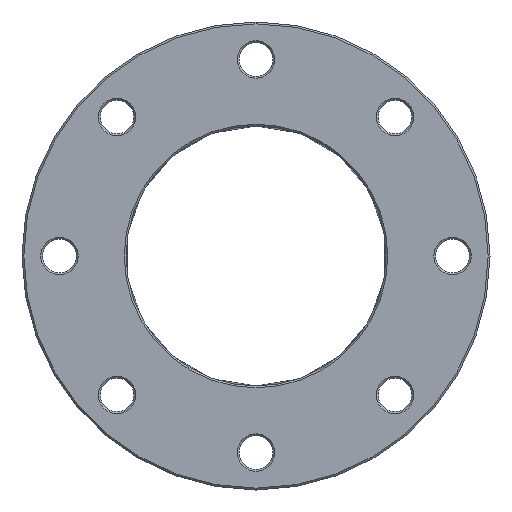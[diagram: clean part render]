
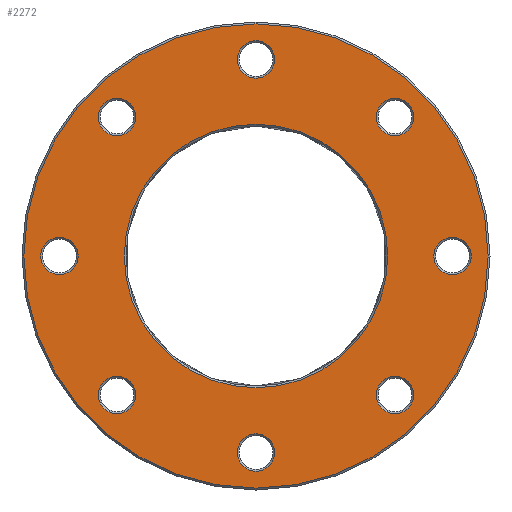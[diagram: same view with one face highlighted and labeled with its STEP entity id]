
A CAD part, front view. The second image highlights one B-rep face of the part: STEP entity #2272.
In plain terms, the highlighted planar face has unit normal (0, -1, 0).
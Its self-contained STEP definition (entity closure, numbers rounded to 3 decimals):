
#646=CARTESIAN_POINT('',(-74.246,-5.948,74.246));
#647=DIRECTION('',(0.,1.,0.));
#648=DIRECTION('',(0.707,0.,0.707));
#649=AXIS2_PLACEMENT_3D('',#646,#647,#648);
#654=CARTESIAN_POINT('',(-74.246,-5.948,74.246));
#655=DIRECTION('',(0.,1.,0.));
#656=DIRECTION('',(-0.707,0.,-0.707));
#657=AXIS2_PLACEMENT_3D('',#654,#655,#656);
#662=CARTESIAN_POINT('',(-105.,-5.948,0.));
#663=DIRECTION('',(0.,1.,0.));
#664=DIRECTION('',(0.,0.,-1.));
#665=AXIS2_PLACEMENT_3D('',#662,#663,#664);
#670=CARTESIAN_POINT('',(-105.,-5.948,0.));
#671=DIRECTION('',(0.,1.,0.));
#672=DIRECTION('',(0.,0.,1.));
#673=AXIS2_PLACEMENT_3D('',#670,#671,#672);
#678=CARTESIAN_POINT('',(-74.246,-5.948,
-74.246));
#679=DIRECTION('',(0.,1.,0.));
#680=DIRECTION('',(0.707,0.,-0.707));
#681=AXIS2_PLACEMENT_3D('',#678,#679,#680);
#686=CARTESIAN_POINT('',(-74.246,-5.948,
-74.246));
#687=DIRECTION('',(0.,1.,0.));
#688=DIRECTION('',(-0.707,0.,0.707));
#689=AXIS2_PLACEMENT_3D('',#686,#687,#688);
#694=CARTESIAN_POINT('',(0.,-5.948,-105.));
#695=DIRECTION('',(0.,1.,0.));
#696=DIRECTION('',(1.,0.,0.));
#697=AXIS2_PLACEMENT_3D('',#694,#695,#696);
#702=CARTESIAN_POINT('',(0.,-5.948,-105.));
#703=DIRECTION('',(0.,1.,0.));
#704=DIRECTION('',(-1.,0.,0.));
#705=AXIS2_PLACEMENT_3D('',#702,#703,#704);
#710=CARTESIAN_POINT('',(74.246,-5.948,-74.246));
#711=DIRECTION('',(0.,1.,0.));
#712=DIRECTION('',(0.707,0.,0.707));
#713=AXIS2_PLACEMENT_3D('',#710,#711,#712);
#718=CARTESIAN_POINT('',(74.246,-5.948,-74.246));
#719=DIRECTION('',(0.,1.,0.));
#720=DIRECTION('',(-0.707,0.,-0.707));
#721=AXIS2_PLACEMENT_3D('',#718,#719,#720);
#726=CARTESIAN_POINT('',(105.,-5.948,0.));
#727=DIRECTION('',(0.,1.,0.));
#728=DIRECTION('',(0.,0.,1.));
#729=AXIS2_PLACEMENT_3D('',#726,#727,#728);
#734=CARTESIAN_POINT('',(105.,-5.948,0.));
#735=DIRECTION('',(0.,1.,0.));
#736=DIRECTION('',(0.,0.,-1.));
#737=AXIS2_PLACEMENT_3D('',#734,#735,#736);
#742=CARTESIAN_POINT('',(0.,-5.948,105.));
#743=DIRECTION('',(0.,1.,0.));
#744=DIRECTION('',(-1.,0.,0.));
#745=AXIS2_PLACEMENT_3D('',#742,#743,#744);
#750=CARTESIAN_POINT('',(0.,-5.948,105.));
#751=DIRECTION('',(0.,1.,0.));
#752=DIRECTION('',(1.,0.,0.));
#753=AXIS2_PLACEMENT_3D('',#750,#751,#752);
#758=CARTESIAN_POINT('',(74.246,-5.948,74.246));
#759=DIRECTION('',(0.,1.,0.));
#760=DIRECTION('',(0.707,0.,-0.707));
#761=AXIS2_PLACEMENT_3D('',#758,#759,#760);
#766=CARTESIAN_POINT('',(74.246,-5.948,74.246));
#767=DIRECTION('',(0.,1.,0.));
#768=DIRECTION('',(-0.707,0.,0.707));
#769=AXIS2_PLACEMENT_3D('',#766,#767,#768);
#774=CARTESIAN_POINT('',(0.,-5.948,0.));
#775=DIRECTION('',(0.,-1.,0.));
#776=DIRECTION('',(-1.,0.,0.));
#777=AXIS2_PLACEMENT_3D('',#774,#775,#776);
#782=CARTESIAN_POINT('',(0.,-5.948,0.));
#783=DIRECTION('',(0.,-1.,0.));
#784=DIRECTION('',(1.,0.,0.));
#785=AXIS2_PLACEMENT_3D('',#782,#783,#784);
#790=CARTESIAN_POINT('',(0.,-5.948,0.));
#791=DIRECTION('',(0.,1.,0.));
#792=DIRECTION('',(1.,0.,0.));
#793=AXIS2_PLACEMENT_3D('',#790,#791,#792);
#798=CARTESIAN_POINT('',(0.,-5.948,0.));
#799=DIRECTION('',(0.,1.,0.));
#800=DIRECTION('',(-1.,0.,0.));
#801=AXIS2_PLACEMENT_3D('',#798,#799,#800);
#1657=CARTESIAN_POINT('',(-67.175,-5.948,
81.317));
#1658=CARTESIAN_POINT('',(-81.317,-5.948,
67.175));
#1659=VERTEX_POINT('',#1657);
#1660=VERTEX_POINT('',#1658);
#1665=CARTESIAN_POINT('',(-105.,-5.948,-10.));
#1666=CARTESIAN_POINT('',(-105.,-5.948,10.));
#1667=VERTEX_POINT('',#1665);
#1668=VERTEX_POINT('',#1666);
#1673=CARTESIAN_POINT('',(-67.175,-5.948,
-81.317));
#1674=CARTESIAN_POINT('',(-81.317,-5.948,
-67.175));
#1675=VERTEX_POINT('',#1673);
#1676=VERTEX_POINT('',#1674);
#1681=CARTESIAN_POINT('',(10.,-5.948,-105.));
#1682=CARTESIAN_POINT('',(-10.,-5.948,-105.));
#1683=VERTEX_POINT('',#1681);
#1684=VERTEX_POINT('',#1682);
#1689=CARTESIAN_POINT('',(81.317,-5.948,
-67.175));
#1690=CARTESIAN_POINT('',(67.175,-5.948,
-81.317));
#1691=VERTEX_POINT('',#1689);
#1692=VERTEX_POINT('',#1690);
#1697=CARTESIAN_POINT('',(105.,-5.948,10.));
#1698=CARTESIAN_POINT('',(105.,-5.948,-10.));
#1699=VERTEX_POINT('',#1697);
#1700=VERTEX_POINT('',#1698);
#1705=CARTESIAN_POINT('',(-10.,-5.948,105.));
#1706=CARTESIAN_POINT('',(10.,-5.948,105.));
#1707=VERTEX_POINT('',#1705);
#1708=VERTEX_POINT('',#1706);
#1713=CARTESIAN_POINT('',(81.317,-5.948,67.175));
#1714=CARTESIAN_POINT('',(67.175,-5.948,81.317));
#1715=VERTEX_POINT('',#1713);
#1716=VERTEX_POINT('',#1714);
#1729=CARTESIAN_POINT('',(-124.,-5.948,0.));
#1730=CARTESIAN_POINT('',(124.,-5.948,0.));
#1731=VERTEX_POINT('',#1729);
#1732=VERTEX_POINT('',#1730);
#1737=CARTESIAN_POINT('',(70.4,-5.948,
0.));
#1738=CARTESIAN_POINT('',(-70.4,-5.948,0.));
#1739=VERTEX_POINT('',#1737);
#1740=VERTEX_POINT('',#1738);
#2208=CARTESIAN_POINT('',(0.,-5.948,0.));
#2209=DIRECTION('',(0.,-1.,0.));
#2210=DIRECTION('',(1.,0.,0.));
#2211=AXIS2_PLACEMENT_3D('',#2208,#2209,#2210);
#2212=PLANE('',#2211);
#2214=ORIENTED_EDGE('',*,*,#2213,.F.);
#2216=ORIENTED_EDGE('',*,*,#2215,.F.);
#2217=EDGE_LOOP('',(#2214,#2216));
#2218=FACE_OUTER_BOUND('',#2217,.F.);
#2220=ORIENTED_EDGE('',*,*,#2219,.F.);
#2222=ORIENTED_EDGE('',*,*,#2221,.F.);
#2223=EDGE_LOOP('',(#2220,#2222));
#2224=FACE_BOUND('',#2223,.F.);
#2226=ORIENTED_EDGE('',*,*,#2225,.F.);
#2228=ORIENTED_EDGE('',*,*,#2227,.F.);
#2229=EDGE_LOOP('',(#2226,#2228));
#2230=FACE_BOUND('',#2229,.F.);
#2232=ORIENTED_EDGE('',*,*,#2231,.F.);
#2234=ORIENTED_EDGE('',*,*,#2233,.F.);
#2235=EDGE_LOOP('',(#2232,#2234));
#2236=FACE_BOUND('',#2235,.F.);
#2238=ORIENTED_EDGE('',*,*,#2237,.F.);
#2240=ORIENTED_EDGE('',*,*,#2239,.F.);
#2241=EDGE_LOOP('',(#2238,#2240));
#2242=FACE_BOUND('',#2241,.F.);
#2244=ORIENTED_EDGE('',*,*,#2243,.F.);
#2246=ORIENTED_EDGE('',*,*,#2245,.F.);
#2247=EDGE_LOOP('',(#2244,#2246));
#2248=FACE_BOUND('',#2247,.F.);
#2250=ORIENTED_EDGE('',*,*,#2249,.F.);
#2252=ORIENTED_EDGE('',*,*,#2251,.F.);
#2253=EDGE_LOOP('',(#2250,#2252));
#2254=FACE_BOUND('',#2253,.F.);
#2256=ORIENTED_EDGE('',*,*,#2255,.F.);
#2258=ORIENTED_EDGE('',*,*,#2257,.F.);
#2259=EDGE_LOOP('',(#2256,#2258));
#2260=FACE_BOUND('',#2259,.F.);
#2262=ORIENTED_EDGE('',*,*,#2261,.F.);
#2264=ORIENTED_EDGE('',*,*,#2263,.F.);
#2265=EDGE_LOOP('',(#2262,#2264));
#2266=FACE_BOUND('',#2265,.F.);
#2268=ORIENTED_EDGE('',*,*,#2267,.F.);
#2269=ORIENTED_EDGE('',*,*,#2198,.F.);
#2270=EDGE_LOOP('',(#2268,#2269));
#2271=FACE_BOUND('',#2270,.F.);
#650=CIRCLE('',#649,10.);
#658=CIRCLE('',#657,10.);
#666=CIRCLE('',#665,10.);
#674=CIRCLE('',#673,10.);
#682=CIRCLE('',#681,10.);
#690=CIRCLE('',#689,10.);
#698=CIRCLE('',#697,10.);
#706=CIRCLE('',#705,10.);
#714=CIRCLE('',#713,10.);
#722=CIRCLE('',#721,10.);
#730=CIRCLE('',#729,10.);
#738=CIRCLE('',#737,10.);
#746=CIRCLE('',#745,10.);
#754=CIRCLE('',#753,10.);
#762=CIRCLE('',#761,10.);
#770=CIRCLE('',#769,10.);
#778=CIRCLE('',#777,124.);
#786=CIRCLE('',#785,124.);
#794=CIRCLE('',#793,70.4);
#802=CIRCLE('',#801,70.4);
#2198=EDGE_CURVE('',#1740,#1739,#802,.T.);
#2213=EDGE_CURVE('',#1731,#1732,#778,.T.);
#2215=EDGE_CURVE('',#1732,#1731,#786,.T.);
#2219=EDGE_CURVE('',#1667,#1668,#666,.T.);
#2221=EDGE_CURVE('',#1668,#1667,#674,.T.);
#2225=EDGE_CURVE('',#1675,#1676,#682,.T.);
#2227=EDGE_CURVE('',#1676,#1675,#690,.T.);
#2231=EDGE_CURVE('',#1683,#1684,#698,.T.);
#2233=EDGE_CURVE('',#1684,#1683,#706,.T.);
#2237=EDGE_CURVE('',#1691,#1692,#714,.T.);
#2239=EDGE_CURVE('',#1692,#1691,#722,.T.);
#2243=EDGE_CURVE('',#1699,#1700,#730,.T.);
#2245=EDGE_CURVE('',#1700,#1699,#738,.T.);
#2249=EDGE_CURVE('',#1707,#1708,#746,.T.);
#2251=EDGE_CURVE('',#1708,#1707,#754,.T.);
#2255=EDGE_CURVE('',#1715,#1716,#762,.T.);
#2257=EDGE_CURVE('',#1716,#1715,#770,.T.);
#2261=EDGE_CURVE('',#1659,#1660,#650,.T.);
#2263=EDGE_CURVE('',#1660,#1659,#658,.T.);
#2267=EDGE_CURVE('',#1739,#1740,#794,.T.);
#2272=ADVANCED_FACE('',(#2218,#2224,#2230,#2236,#2242,#2248,#2254,#2260,#2266,
#2271),#2212,.T.);
